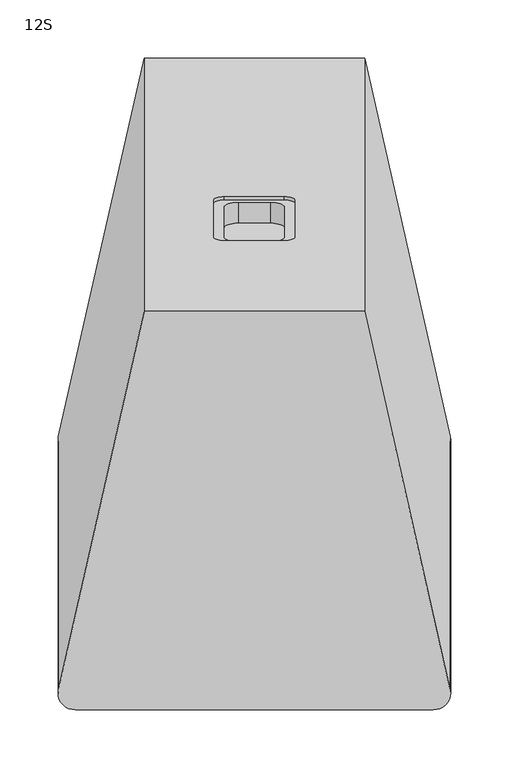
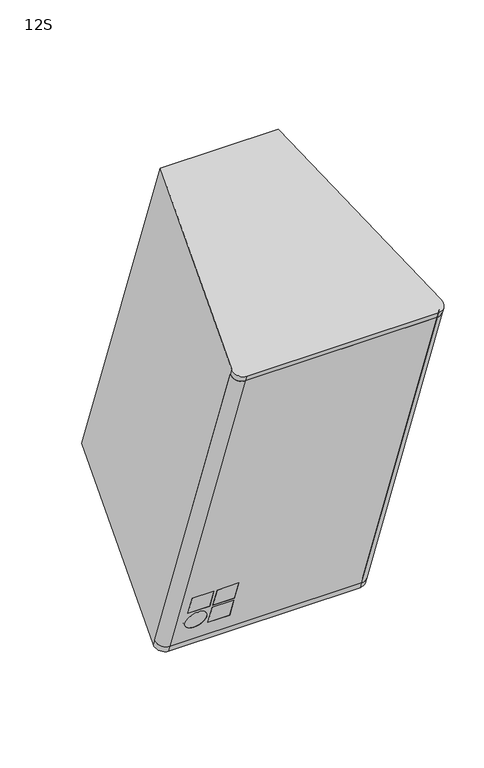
"""IFC4 building model written with IfcOpenShell, lengths in millimetres: proxy geometry, d&b xS-Series 12S Point Source : 12S."""

from ifc_helpers import new_model, si_unit, point, frame, frame_2d, origin, place, context, project, spatial, polyline, circle_curve, trimmed, segment, composite_curve, outline, extrude, source, transform, mapped, element, save
from ifc_brep_helpers import plane_surface, cylinder_surface, revolved_surface, advanced_brep


def proxy_12s_02db009f(model_context):
    return source(origin(), model_context, "Body", "SolidModel", [
        extrude(outline(composite_curve([segment(trimmed(circle_curve(frame_2d((322.6252994, -3.1186753)), 10.0), [point((332.1265553, 0.0))], [point((322.6252994, -13.1186753))], False, "CARTESIAN"), True, "CONTINUOUS"), segment(polyline([(322.6252994, -13.1186753), (14.672214, -13.1186753)]), True, "CONTINUOUS"), segment(trimmed(circle_curve(frame_2d((14.672214, -3.1186753)), 10.0), [point((14.672214, -13.1186753))], [point((5.1709581, 0.0))], False, "CARTESIAN"), True, "CONTINUOUS"), segment(polyline([(5.1709581, 0.0), (332.1265553, 0.0)]), True, "CONTINUOUS")], self_intersect=False)), frame((-168.6487567, -48.0996532, -348.4661293), z_axis=(0.0, -0.34202014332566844, 0.9396926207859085), x_axis=(1.0, 0.0, 0.0)), (0.0, 0.0, 1.0), 622.0),
        advanced_brep(
        [(-103.6487567, -101.7217941, -254.1159708), (-103.6487567, -97.023331, -252.4058701), (-103.6487567, -85.0526259, -285.2951118), (-103.6487567, -89.751089, -287.0052125), (-138.6487567, -85.0526259, -285.2951118), (-138.6487567, -89.751089, -287.0052125), (-138.6487567, -97.023331, -252.4058701), (-138.6487567, -101.7217941, -254.1159708), (-63.6487567, -101.7217941, -254.1159708), (-63.6487567, -97.023331, -252.4058701), (-63.6487567, -85.0526259, -285.2951118), (-63.6487567, -89.751089, -287.0052125), (-98.6487567, -85.0526259, -285.2951118), (-98.6487567, -89.751089, -287.0052125), (-98.6487567, -97.023331, -252.4058701), (-98.6487567, -101.7217941, -254.1159708), (-63.6487567, -88.0409883, -291.7036756), (-63.6487567, -83.3425252, -289.9935749), (-63.6487567, -71.3718202, -322.8828166), (-63.6487567, -76.0702833, -324.5929174), (-98.6487567, -71.3718202, -322.8828166), (-98.6487567, -76.0702833, -324.5929174), (-98.6487567, -83.3425252, -289.9935749), (-98.6487567, -88.0409883, -291.7036756), (-121.1487567, -76.0702833, -324.5929174), (-121.1487567, -71.3718202, -322.8828166), (-121.1487567, -83.3425252, -289.9935749), (-121.1487567, -88.0409883, -291.7036756), (-163.4777986, -259.8101219, 233.203603), (-168.6487567, -259.8101219, 233.203603), (-153.9765427, -276.8361074, 227.006651), (153.9765427, -276.8361074, 227.006651), (168.6487567, -259.8101219, 233.203603), (163.4777986, -259.8101219, 233.203603), (153.9765427, -272.1376443, 228.7167518), (-153.9765427, -272.1376443, 228.7167518), (-163.4777986, -49.1257136, -345.6470514), (-153.9765427, -61.453236, -350.1339026), (153.9765427, -61.453236, -350.1339026), (163.4777986, -49.1257136, -345.6470514), (168.6487567, -49.1257136, -345.6470514), (153.9765427, -66.1516991, -351.8440034), (-153.9765427, -66.1516991, -351.8440034), (-168.6487567, -49.1257136, -345.6470514)],
        [
            (0, 1),
            (1, 2),
            (2, 3),
            (3, 0),
            (2, 4),
            (4, 5),
            (5, 3),
            (4, 6),
            (6, 7),
            (7, 5),
            (0, 7),
            (6, 1),
            (8, 9),
            (9, 10),
            (10, 11),
            (11, 8),
            (10, 12),
            (12, 13),
            (13, 11),
            (12, 14),
            (14, 15),
            (15, 13),
            (8, 15),
            (14, 9),
            (16, 17),
            (17, 18),
            (18, 19),
            (19, 16),
            (18, 20),
            (20, 21),
            (21, 19),
            (20, 22),
            (22, 23),
            (23, 21),
            (16, 23),
            (22, 17),
            (24, 25),
            (25, 26, circle_curve(frame((-121.1487567, -77.3571727, -306.4381958), z_axis=(0.0, 0.939692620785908, 0.34202014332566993), x_axis=(0.0, -0.34202014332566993, 0.939692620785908)), 17.5)),
            (26, 27),
            (27, 24, circle_curve(frame((-121.1487567, -82.0556358, -308.1482965), z_axis=(0.0, -0.939692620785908, -0.34202014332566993), x_axis=(0.0, -0.34202014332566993, 0.939692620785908)), 17.5)),
            (24, 27, circle_curve(frame((-121.1487567, -82.0556358, -308.1482965), z_axis=(0.0, -0.939692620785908, -0.34202014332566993), x_axis=(0.0, -0.34202014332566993, 0.939692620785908)), 17.5)),
            (26, 25, circle_curve(frame((-121.1487567, -77.3571727, -306.4381958), z_axis=(0.0, 0.939692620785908, 0.34202014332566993), x_axis=(0.0, -0.34202014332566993, 0.939692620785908)), 17.5)),
            (28, 29),
            (29, 30, circle_curve(frame((-153.9765427, -262.7407181, 232.1369532), z_axis=(0.0, -0.34202014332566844, 0.9396926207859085), x_axis=(0.0, -0.9396926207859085, -0.34202014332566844)), 15.0)),
            (30, 31),
            (31, 32, circle_curve(frame((153.9765427, -262.7407181, 232.1369532), z_axis=(0.0, -0.34202014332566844, 0.9396926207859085), x_axis=(0.0, -0.9396926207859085, -0.34202014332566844)), 15.0)),
            (32, 33),
            (33, 34, circle_curve(frame((153.9765427, -262.7407181, 232.1369532), z_axis=(0.0, 0.34202014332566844, -0.9396926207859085), x_axis=(0.0, -0.9396926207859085, -0.34202014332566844)), 10.0)),
            (34, 35),
            (35, 28, circle_curve(frame((-153.9765427, -262.7407181, 232.1369532), z_axis=(0.0, 0.34202014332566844, -0.9396926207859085), x_axis=(0.0, -0.9396926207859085, -0.34202014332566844)), 10.0)),
            (36, 37, circle_curve(frame((-153.9765427, -52.0563098, -346.7137012), z_axis=(0.0, -0.34202014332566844, 0.9396926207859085), x_axis=(0.0, -0.9396926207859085, -0.34202014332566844)), 10.0)),
            (37, 38),
            (38, 39, circle_curve(frame((153.9765427, -52.0563098, -346.7137012), z_axis=(0.0, -0.34202014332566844, 0.9396926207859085), x_axis=(0.0, -0.9396926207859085, -0.34202014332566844)), 10.0)),
            (39, 40),
            (40, 41, circle_curve(frame((153.9765427, -52.0563098, -346.7137012), z_axis=(0.0, 0.34202014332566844, -0.9396926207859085), x_axis=(0.0, -0.9396926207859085, -0.34202014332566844)), 15.0)),
            (41, 42),
            (42, 43, circle_curve(frame((-153.9765427, -52.0563098, -346.7137012), z_axis=(0.0, 0.34202014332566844, -0.9396926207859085), x_axis=(0.0, -0.9396926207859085, -0.34202014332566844)), 15.0)),
            (43, 36),
            (28, 36),
            (43, 29),
            (42, 30),
            (41, 31),
            (40, 32),
            (39, 33),
            (38, 34),
            (37, 35),
        ],
        [
            plane_surface(frame((-103.6487567, -89.751089, -287.0052125), z_axis=(-1.0, 0.0, 0.0), x_axis=(0.0, 0.9396926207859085, 0.34202014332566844))),
            plane_surface(frame((-138.6487567, -89.751089, -287.0052125), z_axis=(0.0, -0.34202014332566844, 0.9396926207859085), x_axis=(0.0, 0.9396926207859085, 0.34202014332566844))),
            plane_surface(frame((-138.6487567, -101.7217941, -254.1159708), z_axis=(1.0, 0.0, 0.0), x_axis=(0.0, 0.9396926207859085, 0.34202014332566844))),
            plane_surface(frame((-103.6487567, -101.7217941, -254.1159708), z_axis=(0.0, 0.34202014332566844, -0.9396926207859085), x_axis=(0.0, 0.9396926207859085, 0.34202014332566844))),
            plane_surface(frame((-63.6487567, -89.751089, -287.0052125), z_axis=(-1.0, 0.0, 0.0), x_axis=(0.0, 0.9396926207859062, 0.3420201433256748))),
            plane_surface(frame((-98.6487567, -89.751089, -287.0052125), z_axis=(0.0, -0.3420201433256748, 0.9396926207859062), x_axis=(0.0, 0.9396926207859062, 0.3420201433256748))),
            plane_surface(frame((-98.6487567, -101.7217941, -254.1159708), z_axis=(1.0, 0.0, 0.0), x_axis=(0.0, 0.9396926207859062, 0.3420201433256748))),
            plane_surface(frame((-63.6487567, -101.7217941, -254.1159708), z_axis=(0.0, 0.3420201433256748, -0.9396926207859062), x_axis=(0.0, 0.9396926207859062, 0.3420201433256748))),
            plane_surface(frame((-63.6487567, -76.0702833, -324.5929174), z_axis=(-1.0, 0.0, 0.0), x_axis=(0.0, 0.9396926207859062, 0.3420201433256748))),
            plane_surface(frame((-98.6487567, -76.0702833, -324.5929174), z_axis=(0.0, -0.3420201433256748, 0.9396926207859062), x_axis=(0.0, 0.9396926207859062, 0.3420201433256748))),
            plane_surface(frame((-98.6487567, -88.0409883, -291.7036756), z_axis=(1.0, 0.0, 0.0), x_axis=(0.0, 0.9396926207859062, 0.3420201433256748))),
            plane_surface(frame((-63.6487567, -88.0409883, -291.7036756), z_axis=(0.0, 0.3420201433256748, -0.9396926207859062), x_axis=(0.0, 0.9396926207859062, 0.3420201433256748))),
            revolved_surface(polyline([(-121.1487567, -88.0409883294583, -291.70367563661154), (-121.1487567, -83.34252519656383, -289.9935749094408)]), (-121.1487567, -51.278549, -296.946353), (0.0, -0.939692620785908, -0.34202014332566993)),
            plane_surface(frame((-168.6487567, -259.8101219, 233.203603), z_axis=(0.0, -0.34202014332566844, 0.9396926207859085), x_axis=(-1.0, 0.0, 0.0))),
            plane_surface(frame((-168.6487567, -49.1257136, -345.6470514), z_axis=(0.0, 0.34202014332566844, -0.9396926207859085), x_axis=(1.0, 0.0, 0.0))),
            plane_surface(frame((-163.4777986, -259.8101219, 233.203603), z_axis=(0.0, 0.9396926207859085, 0.34202014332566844), x_axis=(0.0, 0.34202014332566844, -0.9396926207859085))),
            cylinder_surface(frame((-153.9765427, -52.0563098, -346.7137012), z_axis=(0.0, -0.34202014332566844, 0.9396926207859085), x_axis=(0.0, -0.9396926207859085, -0.34202014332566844)), 15.0),
            plane_surface(frame((-153.9765427, -276.8361074, 227.006651), z_axis=(0.0, -0.9396926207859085, -0.34202014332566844), x_axis=(0.0, 0.34202014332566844, -0.9396926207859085))),
            cylinder_surface(frame((153.9765427, -52.0563098, -346.7137012), z_axis=(0.0, -0.34202014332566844, 0.9396926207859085), x_axis=(0.0, -0.9396926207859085, -0.34202014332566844)), 15.0),
            plane_surface(frame((168.6487567, -259.8101219, 233.203603), z_axis=(0.0, 0.9396926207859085, 0.34202014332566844), x_axis=(0.0, 0.34202014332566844, -0.9396926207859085))),
            revolved_surface(polyline([(153.9765427, -61.45323600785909, -350.1339026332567), (153.9765427, -272.1376443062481, 228.71675179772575)]), (153.9765427, -52.0563098, -346.7137012), (0.0, 0.34202014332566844, -0.9396926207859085)),
            plane_surface(frame((153.9765427, -272.1376443, 228.7167518), z_axis=(0.0, 0.9396926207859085, 0.34202014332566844), x_axis=(0.0, 0.34202014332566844, -0.9396926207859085))),
            revolved_surface(polyline([(-153.9765427, -61.45323600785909, -350.1339026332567), (-153.9765427, -272.1376443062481, 228.71675179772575)]), (-153.9765427, -52.0563098, -346.7137012), (0.0, 0.34202014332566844, -0.9396926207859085)),
        ],
        [
            (0, [[1, 2, 3, 4]]),
            (1, [[-3, 5, 6, 7]]),
            (2, [[-6, 8, 9, 10]]),
            (3, [[-1, 11, -9, 12]]),
            (4, [[13, 14, 15, 16]]),
            (5, [[-15, 17, 18, 19]]),
            (6, [[-18, 20, 21, 22]]),
            (7, [[-13, 23, -21, 24]]),
            (8, [[25, 26, 27, 28]]),
            (9, [[-27, 29, 30, 31]]),
            (10, [[-30, 32, 33, 34]]),
            (11, [[-25, 35, -33, 36]]),
            (12, [[37, 38, 39, 40]]),
            (12, [[-37, 41, -39, 42]]),
            (13, [[43, 44, 45, 46, 47, 48, 49, 50]]),
            (14, [[51, 52, 53, 54, 55, 56, 57, 58]]),
            (15, [[-43, 59, -58, 60]]),
            (16, [[-44, -60, -57, 61]]),
            (17, [[-45, -61, -56, 62], [-4, -7, -10, -11], [-16, -19, -22, -23], [-28, -31, -34, -35], [-40, -41]]),
            (18, [[-46, -62, -55, 63]]),
            (19, [[-47, -63, -54, 64]]),
            (20, [[-48, -64, -53, 65]]),
            (21, [[-49, -65, -52, 66], [-2, -12, -8, -5], [-14, -24, -20, -17], [-26, -36, -32, -29], [-38, -42]]),
            (22, [[-50, -66, -51, -59]]),
        ],
    ),
        extrude(outline(polyline([(0.0, -35.0), (0.0, 0.0), (5.0, 0.0), (5.0, -35.0), (0.0, -35.0)])), frame((-138.6487567, -89.751089, -287.0052125), z_axis=(0.0, -0.34202014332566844, 0.9396926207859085), x_axis=(0.0, 0.9396926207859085, 0.34202014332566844)), (0.0, 0.0, 1.0), 35.0),
        extrude(outline(polyline([(0.0, -35.0), (0.0, 0.0), (5.0, 0.0), (5.0, -35.0), (0.0, -35.0)])), frame((-98.6487567, -89.751089, -287.0052125), z_axis=(0.0, -0.34202014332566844, 0.9396926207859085), x_axis=(0.0, 0.9396926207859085, 0.34202014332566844)), (0.0, 0.0, 1.0), 35.0),
        extrude(outline(polyline([(0.0, -35.0), (0.0, 0.0), (5.0, 0.0), (5.0, -35.0), (0.0, -35.0)])), frame((-98.6487567, -76.0702833, -324.5929174), z_axis=(0.0, -0.34202014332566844, 0.9396926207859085), x_axis=(0.0, 0.9396926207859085, 0.34202014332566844)), (0.0, 0.0, 1.0), 35.0),
        extrude(outline(composite_curve([segment(trimmed(circle_curve(frame_2d((-12.5, -57.5)), 17.5), [point((-12.5, -75.0000001))], [point((-12.5, -40.0))], False, "CARTESIAN"), True, "CONTINUOUS"), segment(trimmed(circle_curve(frame_2d((-12.5, -57.5)), 17.5), [point((-12.5, -40.0))], [point((-12.5, -75.0000001))], False, "CARTESIAN"), True, "CONTINUOUS")], self_intersect=False)), frame((-133.6487567, -101.7217941, -254.1159708), z_axis=(0.0, 0.939692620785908, 0.34202014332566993), x_axis=(-1.0, 0.0, 0.0)), (0.0, 0.0, 1.0), 5.0),
        advanced_brep(
        [(-94.916855, 280.598329, -237.3432699), (94.916855, 280.598329, -237.3432699), (168.6487567, -45.363492, -355.9836702), (153.9765427, -62.3894776, -362.1806222), (-153.9765427, -62.3894776, -362.1806222), (-168.6487567, -45.363492, -355.9836702), (-94.916855, 62.3894776, 362.1806222), (-168.6487567, -263.5723435, 243.5402218), (-153.9765427, -280.598329, 237.3432699), (153.9765427, -280.598329, 237.3432699), (168.6487567, -263.5723435, 243.5402218), (94.916855, 62.3894776, 362.1806222), (-35.0, 123.8701867, 184.492349), (-26.0, 120.7920054, 192.9495826), (26.0, 120.7920054, 192.9495826), (35.0, 123.8701867, 184.492349), (35.0, 155.3360398, 98.0406279), (26.0, 158.4142211, 89.5833944), (-26.0, 158.4142211, 89.5833944), (-35.0, 155.3360398, 98.0406279), (-25.9695321, 152.0868485, 106.9677078), (-13.9695321, 156.1910902, 95.6913964), (13.9695321, 156.1910902, 95.6913964), (25.9695321, 152.0868485, 106.9677078), (25.9695321, 126.7773579, 176.5049618), (13.9695321, 122.6731162, 187.7812732), (-13.9695321, 122.6731162, 187.7812732), (-25.9695321, 126.7773579, 176.5049618), (-35.0, 126.6892645, 185.5184095), (-26.0, 123.6110832, 193.9756431), (26.0, 123.6110832, 193.9756431), (35.0, 126.6892645, 185.5184095), (35.0, 158.1551177, 99.0666884), (26.0, 161.233299, 90.6094548), (-26.0, 161.233299, 90.6094548), (-35.0, 158.1551177, 99.0666884), (-13.9695321, 138.3369304, 89.1930137), (-25.9695321, 134.2326887, 100.4693251), (-25.9695321, 108.9231981, 170.0065791), (-13.9695321, 104.8189564, 181.2828905), (13.9695321, 104.8189564, 181.2828905), (25.9695321, 108.9231981, 170.0065791), (25.9695321, 134.2326887, 100.4693251), (13.9695321, 138.3369304, 89.1930137), (168.6487567, -259.8101219, 233.203603), (153.9765427, -276.8361074, 227.006651), (-153.9765427, -276.8361074, 227.006651), (-168.6487567, -259.8101219, 233.203603), (-168.6487567, -49.1257136, -345.6470514), (-153.9765427, -66.1516991, -351.8440034), (153.9765427, -66.1516991, -351.8440034), (168.6487567, -49.1257136, -345.6470514)],
        [
            (0, 1),
            (1, 2),
            (2, 3, circle_curve(frame((153.9765427, -48.2940883, -357.05032), z_axis=(0.0, 0.34202014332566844, -0.9396926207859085), x_axis=(0.0, -0.9396926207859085, -0.34202014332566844)), 15.0)),
            (3, 4),
            (4, 5, circle_curve(frame((-153.9765427, -48.2940883, -357.05032), z_axis=(0.0, 0.34202014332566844, -0.9396926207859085), x_axis=(0.0, -0.9396926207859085, -0.34202014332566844)), 15.0)),
            (5, 0),
            (6, 7),
            (7, 8, circle_curve(frame((-153.9765427, -266.5029397, 242.473572), z_axis=(0.0, -0.34202014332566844, 0.9396926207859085), x_axis=(0.0, -0.9396926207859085, -0.34202014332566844)), 15.0)),
            (8, 9),
            (9, 10, circle_curve(frame((153.9765427, -266.5029397, 242.473572), z_axis=(0.0, -0.34202014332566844, 0.9396926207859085), x_axis=(0.0, -0.9396926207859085, -0.34202014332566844)), 15.0)),
            (10, 11),
            (11, 6),
            (12, 13, circle_curve(frame((-26.0, 123.8701867, 184.492349), z_axis=(0.0, 0.9396926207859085, 0.34202014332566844), x_axis=(-1.0, 0.0, 0.0)), 9.0)),
            (13, 14),
            (14, 15, circle_curve(frame((26.0, 123.8701867, 184.492349), z_axis=(0.0, 0.9396926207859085, 0.34202014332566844), x_axis=(-1.0, 0.0, 0.0)), 9.0)),
            (15, 16),
            (16, 17, circle_curve(frame((26.0, 155.3360398, 98.0406279), z_axis=(0.0, 0.9396926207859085, 0.34202014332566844), x_axis=(-1.0, 0.0, 0.0)), 9.0)),
            (17, 18),
            (18, 19, circle_curve(frame((-26.0, 155.3360398, 98.0406279), z_axis=(0.0, 0.9396926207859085, 0.34202014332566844), x_axis=(-1.0, 0.0, 0.0)), 9.0)),
            (19, 12),
            (20, 21, circle_curve(frame((-13.9695321, 152.0868485, 106.9677078), z_axis=(0.0, -0.9396926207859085, -0.34202014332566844), x_axis=(-1.0, 0.0, 0.0)), 12.0)),
            (21, 22),
            (22, 23, circle_curve(frame((13.9695321, 152.0868485, 106.9677078), z_axis=(0.0, -0.9396926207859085, -0.34202014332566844), x_axis=(-1.0, 0.0, 0.0)), 12.0)),
            (23, 24),
            (24, 25, circle_curve(frame((13.9695321, 126.7773579, 176.5049618), z_axis=(0.0, -0.9396926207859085, -0.34202014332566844), x_axis=(-1.0, 0.0, 0.0)), 12.0)),
            (25, 26),
            (26, 27, circle_curve(frame((-13.9695321, 126.7773579, 176.5049618), z_axis=(0.0, -0.9396926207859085, -0.34202014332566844), x_axis=(-1.0, 0.0, 0.0)), 12.0)),
            (27, 20),
            (12, 28),
            (28, 29, circle_curve(frame((-26.0, 126.6892645, 185.5184095), z_axis=(0.0, 0.9396926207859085, 0.34202014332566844), x_axis=(-1.0, 0.0, 0.0)), 9.0)),
            (29, 13),
            (29, 30),
            (30, 14),
            (30, 31, circle_curve(frame((26.0, 126.6892645, 185.5184095), z_axis=(0.0, 0.9396926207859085, 0.34202014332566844), x_axis=(-1.0, 0.0, 0.0)), 9.0)),
            (31, 15),
            (31, 32),
            (32, 16),
            (32, 33, circle_curve(frame((26.0, 158.1551177, 99.0666884), z_axis=(0.0, 0.9396926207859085, 0.34202014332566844), x_axis=(-1.0, 0.0, 0.0)), 9.0)),
            (33, 17),
            (33, 34),
            (34, 18),
            (34, 35, circle_curve(frame((-26.0, 158.1551177, 99.0666884), z_axis=(0.0, 0.9396926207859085, 0.34202014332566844), x_axis=(-1.0, 0.0, 0.0)), 9.0)),
            (35, 19),
            (35, 28),
            (36, 37, circle_curve(frame((-13.9695321, 134.2326887, 100.4693251), z_axis=(0.0, 0.9396926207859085, 0.34202014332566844), x_axis=(-1.0, 0.0, 0.0)), 12.0)),
            (37, 38),
            (38, 39, circle_curve(frame((-13.9695321, 108.9231981, 170.0065791), z_axis=(0.0, 0.9396926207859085, 0.34202014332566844), x_axis=(-1.0, 0.0, 0.0)), 12.0)),
            (39, 40),
            (40, 41, circle_curve(frame((13.9695321, 108.9231981, 170.0065791), z_axis=(0.0, 0.9396926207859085, 0.34202014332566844), x_axis=(-1.0, 0.0, 0.0)), 12.0)),
            (41, 42),
            (42, 43, circle_curve(frame((13.9695321, 134.2326887, 100.4693251), z_axis=(0.0, 0.9396926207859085, 0.34202014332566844), x_axis=(-1.0, 0.0, 0.0)), 12.0)),
            (43, 36),
            (44, 45, circle_curve(frame((153.9765427, -262.7407181, 232.1369532), z_axis=(0.0, 0.34202014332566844, -0.9396926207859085), x_axis=(0.0, -0.9396926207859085, -0.34202014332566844)), 15.0)),
            (45, 46),
            (46, 47, circle_curve(frame((-153.9765427, -262.7407181, 232.1369532), z_axis=(0.0, 0.34202014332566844, -0.9396926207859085), x_axis=(0.0, -0.9396926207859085, -0.34202014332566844)), 15.0)),
            (47, 44),
            (48, 49, circle_curve(frame((-153.9765427, -52.0563098, -346.7137012), z_axis=(0.0, -0.34202014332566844, 0.9396926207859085), x_axis=(0.0, -0.9396926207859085, -0.34202014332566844)), 15.0)),
            (49, 50),
            (50, 51, circle_curve(frame((153.9765427, -52.0563098, -346.7137012), z_axis=(0.0, -0.34202014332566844, 0.9396926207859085), x_axis=(0.0, -0.9396926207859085, -0.34202014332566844)), 15.0)),
            (51, 48),
            (36, 21),
            (20, 37),
            (27, 38),
            (26, 39),
            (25, 40),
            (24, 41),
            (23, 42),
            (22, 43),
            (0, 6),
            (11, 1),
            (10, 44),
            (44, 51),
            (51, 2),
            (47, 48),
            (5, 48),
            (47, 7),
            (46, 8),
            (45, 9),
            (4, 49),
            (3, 50),
        ],
        [
            plane_surface(frame((-94.916855, 280.598329, -237.3432699), z_axis=(0.0, 0.34202014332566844, -0.9396926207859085), x_axis=(1.0, 0.0, 0.0))),
            plane_surface(frame((-94.916855, 62.3894776, 362.1806222), z_axis=(0.0, -0.34202014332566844, 0.9396926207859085), x_axis=(-1.0, 0.0, 0.0))),
            plane_surface(frame((-35.0, 123.8701867, 184.492349), z_axis=(0.0, 0.9396926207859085, 0.34202014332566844), x_axis=(0.0, 0.34202014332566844, -0.9396926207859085))),
            revolved_surface(polyline([(-35.0, 126.68926452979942, 185.51840941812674), (-35.0, 123.87018669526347, 184.49234899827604)]), (-26.0, 123.8701867, 184.492349), (0.0, 0.9396926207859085, 0.34202014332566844)),
            plane_surface(frame((-26.0, 123.6110832, 193.9756431), z_axis=(0.0, 0.34202014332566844, -0.9396926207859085), x_axis=(0.0, -0.9396926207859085, -0.34202014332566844))),
            revolved_surface(polyline([(17.0, 126.68926452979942, 185.51840941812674), (17.0, 123.87018669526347, 184.49234899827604)]), (26.0, 123.8701867, 184.492349), (0.0, 0.9396926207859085, 0.34202014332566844)),
            plane_surface(frame((35.0, 126.6892645, 185.5184095), z_axis=(-1.0, 0.0, 0.0), x_axis=(0.0, -0.9396926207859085, -0.34202014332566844))),
            revolved_surface(polyline([(17.0, 158.15511772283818, 99.06668835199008), (17.0, 155.3360398, 98.0406279)]), (26.0, 155.3360398, 98.0406279), (0.0, 0.9396926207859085, 0.34202014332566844)),
            plane_surface(frame((26.0, 161.233299, 90.6094548), z_axis=(0.0, -0.34202014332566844, 0.9396926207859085), x_axis=(0.0, -0.9396926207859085, -0.34202014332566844))),
            revolved_surface(polyline([(-35.0, 158.15511772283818, 99.06668835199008), (-35.0, 155.3360398, 98.0406279)]), (-26.0, 155.3360398, 98.0406279), (0.0, 0.9396926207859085, 0.34202014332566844)),
            plane_surface(frame((-35.0, 158.1551177, 99.0666884), z_axis=(1.0, 0.0, 0.0), x_axis=(0.0, -0.9396926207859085, -0.34202014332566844))),
            plane_surface(frame((-25.9695321, 134.2326887, 100.4693251), z_axis=(0.0, 0.9396926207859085, 0.34202014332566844), x_axis=(0.0, 0.34202014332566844, -0.9396926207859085))),
            plane_surface(frame((-168.6487567, -259.8101219, 233.203603), z_axis=(0.0, 0.34202014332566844, -0.9396926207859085), x_axis=(1.0, 0.0, 0.0))),
            plane_surface(frame((153.9765427, -61.453236, -350.1339026), z_axis=(0.0, -0.34202014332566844, 0.9396926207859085), x_axis=(1.0, 0.0, 0.0))),
            revolved_surface(polyline([(-25.969532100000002, 152.0868484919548, 106.967707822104), (-25.969532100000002, 134.23268869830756, 100.46932509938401)]), (-13.9695321, 134.2326887, 100.4693251), (0.0, 0.9396926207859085, 0.34202014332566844)),
            plane_surface(frame((-25.9695321, 152.0868485, 106.9677078), z_axis=(1.0, 0.0, 0.0), x_axis=(0.0, -0.9396926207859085, -0.34202014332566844))),
            revolved_surface(polyline([(-25.969532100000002, 126.77735789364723, 176.50496182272), (-25.969532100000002, 108.9231981, 170.0065791)]), (-13.9695321, 108.9231981, 170.0065791), (0.0, 0.9396926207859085, 0.34202014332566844)),
            plane_surface(frame((-13.9695321, 122.6731162, 187.7812732), z_axis=(0.0, 0.34202014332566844, -0.9396926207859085), x_axis=(0.0, -0.9396926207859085, -0.34202014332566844))),
            revolved_surface(polyline([(1.9695321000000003, 126.77735789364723, 176.50496182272), (1.9695321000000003, 108.9231981, 170.0065791)]), (13.9695321, 108.9231981, 170.0065791), (0.0, 0.9396926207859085, 0.34202014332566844)),
            plane_surface(frame((25.9695321, 126.7773579, 176.5049618), z_axis=(-1.0, 0.0, 0.0), x_axis=(0.0, -0.9396926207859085, -0.34202014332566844))),
            revolved_surface(polyline([(1.9695321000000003, 152.0868484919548, 106.967707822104), (1.9695321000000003, 134.23268869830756, 100.46932509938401)]), (13.9695321, 134.2326887, 100.4693251), (0.0, 0.9396926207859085, 0.34202014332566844)),
            plane_surface(frame((13.9695321, 156.1910902, 95.6913964), z_axis=(0.0, -0.34202014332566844, 0.9396926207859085), x_axis=(0.0, -0.9396926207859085, -0.34202014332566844))),
            plane_surface(frame((-94.916855, 280.598329, -237.3432699), z_axis=(0.0, 0.9396926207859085, 0.34202014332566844), x_axis=(0.0, -0.34202014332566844, 0.9396926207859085))),
            plane_surface(frame((94.916855, 280.598329, -237.3432699), z_axis=(0.9781476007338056, 0.19537308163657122, 0.07110998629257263), x_axis=(0.0, -0.34202014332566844, 0.9396926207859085))),
            plane_surface(frame((168.6487567, -45.363492, -355.9836702), z_axis=(0.0, -0.9396926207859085, -0.34202014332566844), x_axis=(0.0, -0.34202014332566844, 0.9396926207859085))),
            plane_surface(frame((-168.6487567, -45.363492, -355.9836702), z_axis=(-0.9781476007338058, 0.1953730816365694, 0.07110998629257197), x_axis=(0.0, -0.34202014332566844, 0.9396926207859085))),
            cylinder_surface(frame((-153.9765427, -262.7407181, 232.1369532), z_axis=(0.0, -0.34202014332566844, 0.9396926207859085), x_axis=(0.0, -0.9396926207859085, -0.34202014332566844)), 15.0),
            plane_surface(frame((-153.9765427, -280.598329, 237.3432699), z_axis=(0.0, -0.9396926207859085, -0.34202014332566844), x_axis=(0.0, 0.34202014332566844, -0.9396926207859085))),
            cylinder_surface(frame((153.9765427, -262.7407181, 232.1369532), z_axis=(0.0, -0.34202014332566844, 0.9396926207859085), x_axis=(0.0, -0.9396926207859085, -0.34202014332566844)), 15.0),
            cylinder_surface(frame((-153.9765427, -48.2940883, -357.05032), z_axis=(0.0, -0.34202014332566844, 0.9396926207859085), x_axis=(0.0, -0.9396926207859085, -0.34202014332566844)), 15.0),
            plane_surface(frame((-153.9765427, -66.1516991, -351.8440034), z_axis=(0.0, -0.9396926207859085, -0.34202014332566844), x_axis=(0.0, 0.34202014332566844, -0.9396926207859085))),
            cylinder_surface(frame((153.9765427, -48.2940883, -357.05032), z_axis=(0.0, -0.34202014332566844, 0.9396926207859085), x_axis=(0.0, -0.9396926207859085, -0.34202014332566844)), 15.0),
        ],
        [
            (0, [[1, 2, 3, 4, 5, 6]]),
            (1, [[7, 8, 9, 10, 11, 12]]),
            (2, [[13, 14, 15, 16, 17, 18, 19, 20], [21, 22, 23, 24, 25, 26, 27, 28]]),
            (3, [[-13, 29, 30, 31]]),
            (4, [[-14, -31, 32, 33]]),
            (5, [[-15, -33, 34, 35]]),
            (6, [[-16, -35, 36, 37]]),
            (7, [[-17, -37, 38, 39]]),
            (8, [[-18, -39, 40, 41]]),
            (9, [[-19, -41, 42, 43]]),
            (10, [[-20, -43, 44, -29]]),
            (11, [[45, 46, 47, 48, 49, 50, 51, 52]]),
            (12, [[53, 54, 55, 56]]),
            (13, [[57, 58, 59, 60]]),
            (14, [[-45, 61, -21, 62]]),
            (15, [[-46, -62, -28, 63]]),
            (16, [[-47, -63, -27, 64]]),
            (17, [[-48, -64, -26, 65]]),
            (18, [[-49, -65, -25, 66]]),
            (19, [[-50, -66, -24, 67]]),
            (20, [[-51, -67, -23, 68]]),
            (21, [[-52, -68, -22, -61]]),
            (22, [[-1, 69, -12, 70], [-30, -44, -42, -40, -38, -36, -34, -32]]),
            (23, [[-2, -70, -11, 71, 72, 73]]),
            (24, [[-56, 74, -60, -72]]),
            (25, [[-6, 75, -74, 76, -7, -69]]),
            (26, [[-8, -76, -55, 77]]),
            (27, [[-9, -77, -54, 78]]),
            (28, [[-10, -78, -53, -71]]),
            (29, [[-57, -75, -5, 79]]),
            (30, [[-58, -79, -4, 80]]),
            (31, [[-59, -80, -3, -73]]),
        ],
    ),
    ])


if __name__ == "__main__":
    model = new_model("IFC4")
    model_context = context("Model", 3, world=origin())
    ifc_project = project(units=[si_unit("LENGTHUNIT", "METRE", prefix="MILLI")], contexts=[model_context])
    site = spatial("IfcSite", under=ifc_project)
    building = spatial("IfcBuilding", under=site)
    placement = place(None, origin())
    proxy_12s_shape = proxy_12s_02db009f(model_context)
    element("IfcBuildingElementProxy", 1, Name="d&b xS-Series 12S Point Source : 12S", ObjectType="d&b xS-Series 12S Point Source : 12S", at=placement, inside=building, context=model_context, shape_type="MappedRepresentation", body=[
        mapped(proxy_12s_shape, transform((0.0, 0.0, 0.0), x_axis=(1.0, 0.0, 0.0), y_axis=(0.0, 1.0, 0.0), z_axis=(0.0, 0.0, 1.0))),
    ])
    save(model, "model.ifc")
